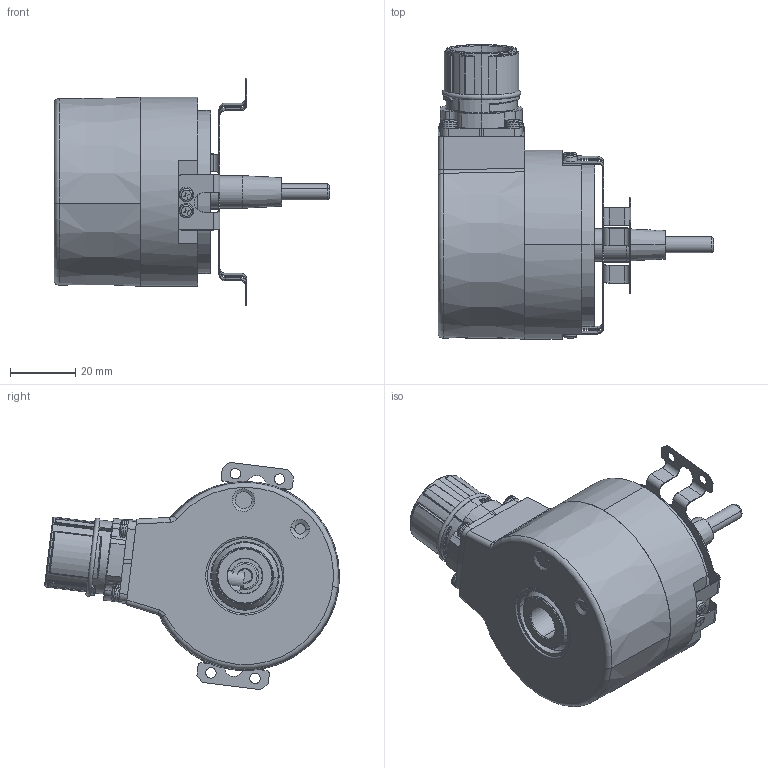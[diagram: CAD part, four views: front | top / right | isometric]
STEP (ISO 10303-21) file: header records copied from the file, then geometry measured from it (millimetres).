
FILE_DESCRIPTION (( 'STEP AP203' ), '1' );
FILE_NAME ('8.5834FSX.BKX4.XXXX.STEP', '2013-08-01T13:43:51', ( 'Admin' ), ( 'Fritz Kübler GmbH' ), 'SwSTEP 2.0', 'SolidWorks 2012', '' );
FILE_SCHEMA (( 'CONFIG_CONTROL_DESIGN' ));
Products named in the file (1): 8.5834FSX.BKX4.XXXX
Bounding box: 84.5 x 90.43 x 69.69 mm (x, y, z)
Volume: 87438.3 mm3; surface area: 56028.2 mm2
Topology: 35 solids, 35 shells, 1740 faces, 4126 edges, 2491 vertices
Faces by surface type: cylinder 667, plane 515, cone 266, torus 145, sphere 84, bspline 63
Entity records: 52493 total; most frequent: CARTESIAN_POINT 12236, DIRECTION 9037, ORIENTED_EDGE 7988, EDGE_CURVE 3994, AXIS2_PLACEMENT_3D 3719, VERTEX_POINT 2453, CIRCLE 2041, EDGE_LOOP 1969
